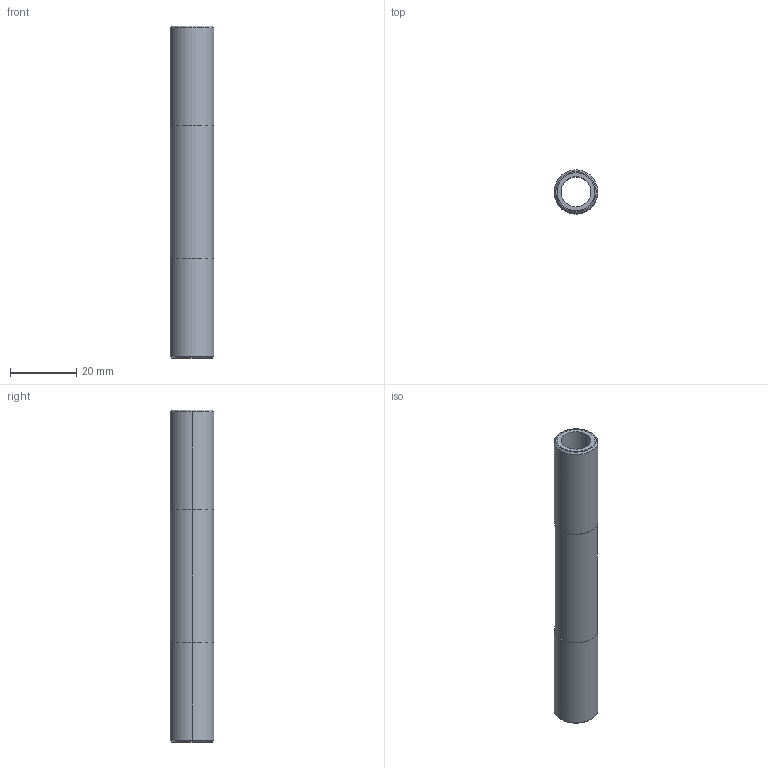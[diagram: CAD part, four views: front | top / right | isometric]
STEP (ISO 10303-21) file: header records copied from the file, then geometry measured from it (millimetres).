
FILE_DESCRIPTION (( 'STEP AP214' ), '1' );
FILE_NAME ('BruyRubio_BR88-1_4_GAS_x_100.STEP', '2019-12-17T12:23:25', ( '' ), ( '' ), 'SwSTEP 2.0', 'SolidWorks 2017', '' );
FILE_SCHEMA (( 'AUTOMOTIVE_DESIGN' ));
Length unit declared in the file: millimetre
Products named in the file (1): BruyRubio_BR88-1_4_GAS_x_100
Bounding box: 13.16 x 13.16 x 100 mm (x, y, z)
Volume: 7096.2 mm3; surface area: 11500.2 mm2
Topology: 3 solids, 3 shells, 28 faces, 56 edges, 36 vertices
Faces by surface type: cylinder 16, plane 8, cone 4
Entity records: 1116 total; most frequent: DIRECTION 150, CARTESIAN_POINT 121, ORIENTED_EDGE 112, AXIS2_PLACEMENT_3D 65, EDGE_CURVE 56, CIRCLE 36, EDGE_LOOP 36, VERTEX_POINT 36
